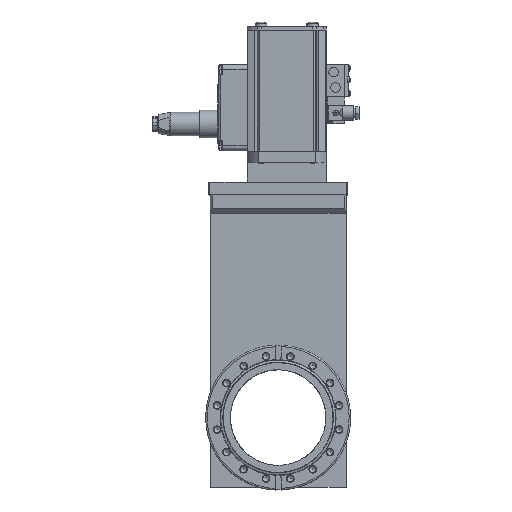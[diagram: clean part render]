
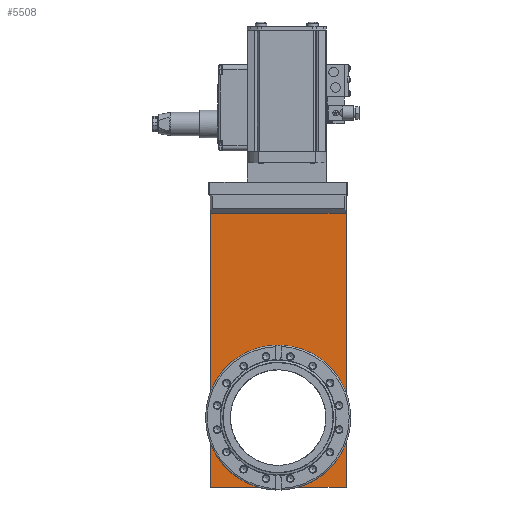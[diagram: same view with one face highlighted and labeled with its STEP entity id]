
A CAD part, top view. The second image highlights one B-rep face of the part: STEP entity #5508.
In plain terms, the highlighted free-form (B-spline) face has degree [1, 1] with [2, 2] control points.
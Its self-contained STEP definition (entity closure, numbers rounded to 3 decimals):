
#5370=CARTESIAN_POINT('V9',(50.05,0.0,0.0));
#5371=VERTEX_POINT('V9',#5370);
#5377=CARTESIAN_POINT('E13',(50.05,0.0,0.0));
#5378=CARTESIAN_POINT('E13',(50.05,-86.689,
   0.0));
#5379=CARTESIAN_POINT('E13',(-25.025,-43.345,
   0.0));
#5380=CARTESIAN_POINT('E13',(-100.1,0.,0.0)
   );
#5381=CARTESIAN_POINT('E13',(-25.025,43.345,
   0.0));
#5382=CARTESIAN_POINT('E13',(50.05,86.689,
   0.0));
#5383=CARTESIAN_POINT('E13',(50.05,0.0,0.0));
#5391=(BOUNDED_CURVE()B_SPLINE_CURVE(2,(#5377,#5378,#5379,#5380,
   #5381,#5382,#5383),.CIRCULAR_ARC.,.T.,.U.)
   B_SPLINE_CURVE_WITH_KNOTS((3,2,2,3),(0.0,0.333,
   0.667,1.0),.UNSPECIFIED.)CURVE()
   GEOMETRIC_REPRESENTATION_ITEM()RATIONAL_B_SPLINE_CURVE((1.0,
   0.5,1.0,0.5,1.0,0.5,1.0)
   )REPRESENTATION_ITEM('E13'));
#5392=EDGE_CURVE('E13',#5371,#5371,#5391,.T.);
#5403=CARTESIAN_POINT('V5',(-71.15,-233.0,0.0));
#5404=VERTEX_POINT('V5',#5403);
#5405=CARTESIAN_POINT('V1',(-71.15,73.05,
   0.0));
#5406=VERTEX_POINT('V1',#5405);
#5407=CARTESIAN_POINT('E5',(-71.15,-233.0,0.0));
#5408=CARTESIAN_POINT('E5',(-71.15,73.05,
   0.0));
#5409=QUASI_UNIFORM_CURVE('E5',1,(#5407,#5408),.POLYLINE_FORM.,.F.,
   .U.);
#5410=EDGE_CURVE('E5',#5404,#5406,#5409,.T.);
#5439=CARTESIAN_POINT('V7',(71.15,-233.0,0.0));
#5440=VERTEX_POINT('V7',#5439);
#5441=CARTESIAN_POINT('E8',(71.15,-233.0,0.0));
#5442=CARTESIAN_POINT('E8',(-71.15,-233.0,0.0));
#5443=QUASI_UNIFORM_CURVE('E8',1,(#5441,#5442),.POLYLINE_FORM.,.F.,
   .U.);
#5444=EDGE_CURVE('E8',#5440,#5404,#5443,.T.);
#5467=CARTESIAN_POINT('V2',(71.15,73.05,
   0.0));
#5468=VERTEX_POINT('V2',#5467);
#5469=CARTESIAN_POINT('E11',(71.15,-233.0,0.0));
#5470=CARTESIAN_POINT('E11',(71.15,73.05,
   0.0));
#5471=QUASI_UNIFORM_CURVE('E11',1,(#5469,#5470),.POLYLINE_FORM.,.F.,
   .U.);
#5472=EDGE_CURVE('E11',#5440,#5468,#5471,.T.);
#5490=CARTESIAN_POINT('F5',(-74.707,80.701,
   0.0));
#5491=CARTESIAN_POINT('F5',(74.707,80.701,
   0.0));
#5492=CARTESIAN_POINT('F5',(-74.707,-240.651,
   0.0));
#5493=CARTESIAN_POINT('F5',(74.707,-240.651,
   0.0));
#5494=B_SPLINE_SURFACE_WITH_KNOTS('F5',1,1,((#5490,#5492),(#5491,
   #5493)),.PLANE_SURF.,.F.,.F.,.U.,(2,2),(2,2),(0.0,1.0),(0.0,
   2.151),.UNSPECIFIED.);
#5495=ORIENTED_EDGE('E11',*,*,#5472,.T.);
#5496=CARTESIAN_POINT('E1',(-71.15,73.05,
   0.0));
#5497=CARTESIAN_POINT('E1',(71.15,73.05,
   0.0));
#5498=QUASI_UNIFORM_CURVE('E1',1,(#5496,#5497),.POLYLINE_FORM.,.F.,
   .U.);
#5499=EDGE_CURVE('E1',#5406,#5468,#5498,.T.);
#5500=ORIENTED_EDGE('E1',*,*,#5499,.F.);
#5501=ORIENTED_EDGE('E5',*,*,#5410,.F.);
#5502=ORIENTED_EDGE('E8',*,*,#5444,.F.);
#5503=EDGE_LOOP('F5',(#5495,#5500,#5501,#5502));
#5504=FACE_OUTER_BOUND('F5',#5503,.F.);
#5505=ORIENTED_EDGE('E13',*,*,#5392,.T.);
#5506=EDGE_LOOP('F5',(#5505));
#5507=FACE_BOUND('F5',#5506,.F.);
#5508=ADVANCED_FACE('F5',(#5504,#5507),#5494,.T.);
